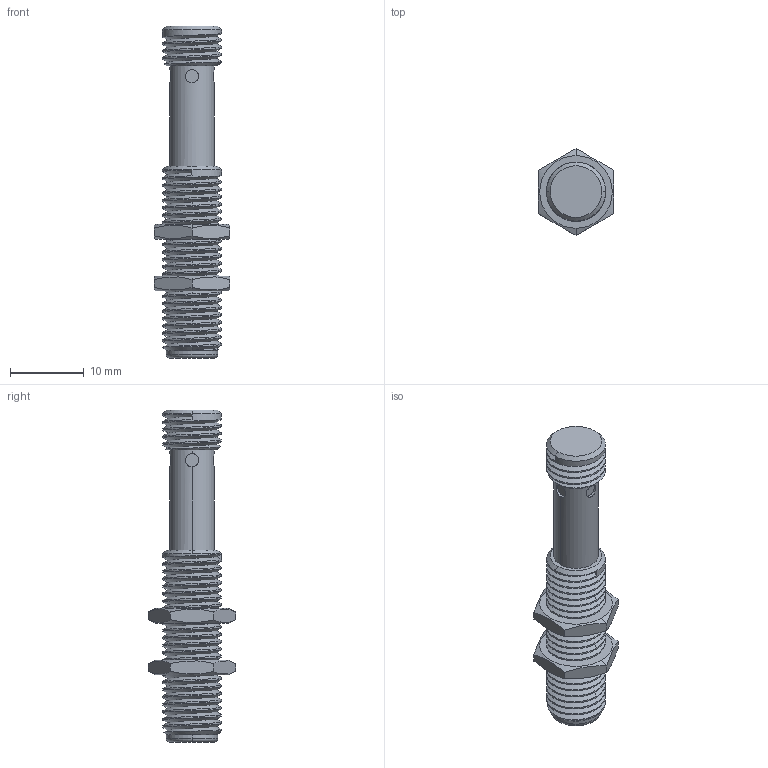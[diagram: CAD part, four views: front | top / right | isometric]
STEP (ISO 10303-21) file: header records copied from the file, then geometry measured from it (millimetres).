
FILE_DESCRIPTION((''),'2;1');
FILE_NAME('M8_QP_DS845_ASM','2019-07-16T',('Administrator'),(''),'PRO/ENGINEER BY PARAMETRIC TECHNOLOGY CORPORATION, 2012130','PRO/ENGINEER BY PARAMETRIC TECHNOLOGY CORPORATION, 2012130','');
FILE_SCHEMA(('AUTOMOTIVE_DESIGN { 1 0 10303 214 1 1 1 1 }'));
Length unit declared in the file: millimetre
Products named in the file (3): M8_QP_DS845; M8_LM; M8_QP_DS845_ASM
Assembly tree (3 placements, depth 2):
  M8_QP_DS845_ASM
    M8_QP_DS845
    M8_LM  x2
Bounding box: 10.22 x 11.8 x 45 mm (x, y, z)
Volume: 1927.4 mm3; surface area: 2078.2 mm2
Topology: 3 solids, 3 shells, 145 faces, 375 edges, 240 vertices
Faces by surface type: cylinder 77, plane 30, bspline 22, cone 14, torus 2
Entity records: 11280 total; most frequent: CARTESIAN_POINT 8327, ORIENTED_EDGE 650, DIRECTION 420, EDGE_CURVE 325, VERTEX_POINT 208, B_SPLINE_CURVE_WITH_KNOTS 169, AXIS2_PLACEMENT_3D 152, EDGE_LOOP 131
